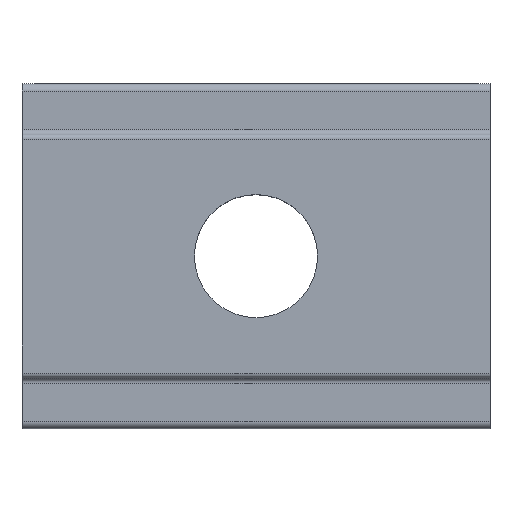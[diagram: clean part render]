
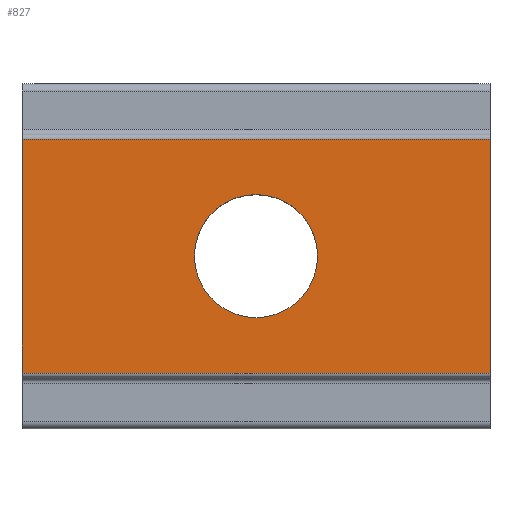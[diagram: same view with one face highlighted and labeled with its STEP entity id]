
A CAD part, top view. The second image highlights one B-rep face of the part: STEP entity #827.
In plain terms, the highlighted planar face has unit normal (0, 0, 1).
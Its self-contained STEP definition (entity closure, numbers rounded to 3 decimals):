
#110 = CARTESIAN_POINT ( 'NONE',  ( -2.5, 0., 0. ) ) ;
#149 = CARTESIAN_POINT ( 'NONE',  ( -9.5, 4.75, 0. ) ) ;
#155 = CIRCLE ( 'NONE', #1419, 2.5 ) ;
#159 = CARTESIAN_POINT ( 'NONE',  ( 0., 0., 0. ) ) ;
#210 = EDGE_CURVE ( 'NONE', #1280, #391, #1210, .T. ) ;
#264 = FACE_OUTER_BOUND ( 'NONE', #1044, .T. ) ;
#286 = LINE ( 'NONE', #1357, #1351 ) ;
#322 = CARTESIAN_POINT ( 'NONE',  ( 0., 0., 0. ) ) ;
#336 = ORIENTED_EDGE ( 'NONE', *, *, #1244, .F. ) ;
#386 = DIRECTION ( 'NONE',  ( -1., 0., 0. ) ) ;
#391 = VERTEX_POINT ( 'NONE', #485 ) ;
#404 = VECTOR ( 'NONE', #997, 1000. ) ;
#418 = ORIENTED_EDGE ( 'NONE', *, *, #1133, .F. ) ;
#433 = CARTESIAN_POINT ( 'NONE',  ( 9.5, 4.75, 0. ) ) ;
#485 = CARTESIAN_POINT ( 'NONE',  ( -9.5, 4.75, 0. ) ) ;
#510 = LINE ( 'NONE', #982, #925 ) ;
#516 = DIRECTION ( 'NONE',  ( 0., 1., 0. ) ) ;
#534 = DIRECTION ( 'NONE',  ( 1., 0., 0. ) ) ;
#578 = AXIS2_PLACEMENT_3D ( 'NONE', #885, #642, #386 ) ;
#626 = PLANE ( 'NONE',  #578 ) ;
#642 = DIRECTION ( 'NONE',  ( 0., 0., -1. ) ) ;
#643 = ORIENTED_EDGE ( 'NONE', *, *, #1179, .F. ) ;
#663 = ORIENTED_EDGE ( 'NONE', *, *, #1213, .F. ) ;
#709 = ORIENTED_EDGE ( 'NONE', *, *, #1481, .F. ) ;
#731 = DIRECTION ( 'NONE',  ( 0., 0., 1. ) ) ;
#769 = CARTESIAN_POINT ( 'NONE',  ( 2.5, 0., 0. ) ) ;
#771 = DIRECTION ( 'NONE',  ( 0., 0., 1. ) ) ;
#827 = ADVANCED_FACE ( 'NONE', ( #264, #1237 ), #626, .F. ) ;
#861 = CARTESIAN_POINT ( 'NONE',  ( 9.5, 4.75, 0. ) ) ;
#866 = DIRECTION ( 'NONE',  ( 0., -1., 0. ) ) ;
#885 = CARTESIAN_POINT ( 'NONE',  ( 9.5, 4.75, 0. ) ) ;
#887 = DIRECTION ( 'NONE',  ( -1., 0., 0. ) ) ;
#905 = EDGE_LOOP ( 'NONE', ( #643, #336 ) ) ;
#925 = VECTOR ( 'NONE', #866, 1000. ) ;
#982 = CARTESIAN_POINT ( 'NONE',  ( 9.5, 4.75, 0. ) ) ;
#997 = DIRECTION ( 'NONE',  ( 1., 0., 0. ) ) ;
#1014 = CARTESIAN_POINT ( 'NONE',  ( 9.5, -4.75, 0. ) ) ;
#1044 = EDGE_LOOP ( 'NONE', ( #709, #663, #418, #1375 ) ) ;
#1115 = LINE ( 'NONE', #861, #404 ) ;
#1133 = EDGE_CURVE ( 'NONE', #391, #1526, #1115, .T. ) ;
#1165 = VECTOR ( 'NONE', #516, 1000. ) ;
#1172 = CIRCLE ( 'NONE', #1525, 2.5 ) ;
#1179 = EDGE_CURVE ( 'NONE', #1380, #1489, #155, .T. ) ;
#1210 = LINE ( 'NONE', #149, #1165 ) ;
#1213 = EDGE_CURVE ( 'NONE', #1526, #1387, #510, .T. ) ;
#1237 = FACE_BOUND ( 'NONE', #905, .T. ) ;
#1244 = EDGE_CURVE ( 'NONE', #1489, #1380, #1172, .T. ) ;
#1272 = CARTESIAN_POINT ( 'NONE',  ( -9.5, -4.75, 0. ) ) ;
#1280 = VERTEX_POINT ( 'NONE', #1272 ) ;
#1351 = VECTOR ( 'NONE', #887, 1000. ) ;
#1357 = CARTESIAN_POINT ( 'NONE',  ( 9.5, -4.75, 0. ) ) ;
#1375 = ORIENTED_EDGE ( 'NONE', *, *, #210, .F. ) ;
#1380 = VERTEX_POINT ( 'NONE', #769 ) ;
#1387 = VERTEX_POINT ( 'NONE', #1014 ) ;
#1419 = AXIS2_PLACEMENT_3D ( 'NONE', #159, #731, #1464 ) ;
#1464 = DIRECTION ( 'NONE',  ( 1., 0., 0. ) ) ;
#1481 = EDGE_CURVE ( 'NONE', #1387, #1280, #286, .T. ) ;
#1489 = VERTEX_POINT ( 'NONE', #110 ) ;
#1525 = AXIS2_PLACEMENT_3D ( 'NONE', #322, #771, #534 ) ;
#1526 = VERTEX_POINT ( 'NONE', #433 ) ;
